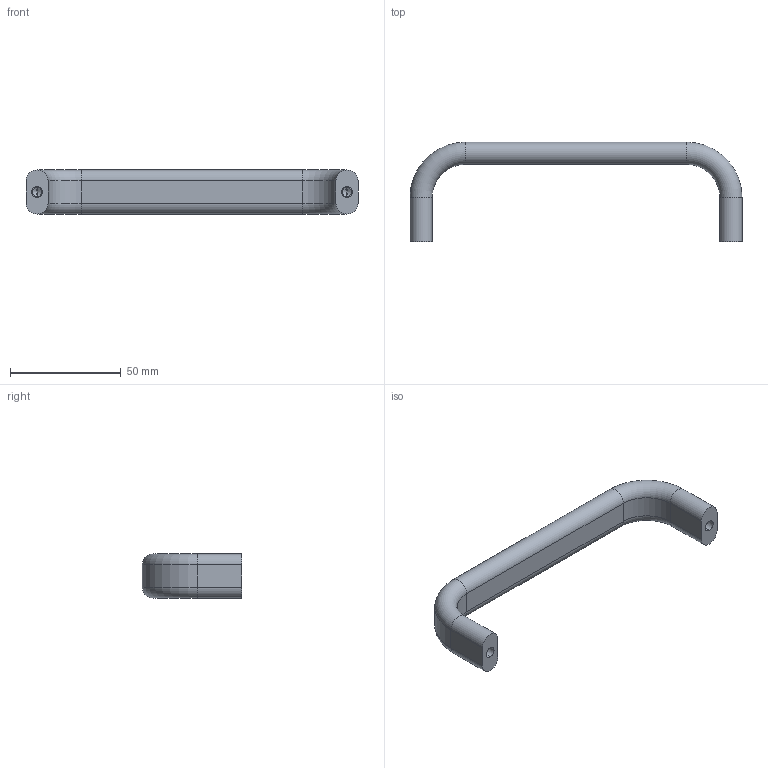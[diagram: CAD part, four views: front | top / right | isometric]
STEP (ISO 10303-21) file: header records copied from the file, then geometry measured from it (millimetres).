
FILE_DESCRIPTION (( 'STEP AP203' ), '1' );
FILE_NAME ('7803.W140-4.step', '2010-02-11T18:09:38', ( 'Wixroyd' ), ( 'Wixroyd' ), 'SwSTEP 2.0', 'SolidWorks 2009', '' );
FILE_SCHEMA (( 'CONFIG_CONTROL_DESIGN' ));
Length unit declared in the file: millimetre
Products named in the file (1): 7803.W140-4
Bounding box: 150 x 45 x 20 mm (x, y, z)
Volume: 35740.4 mm3; surface area: 11170.3 mm2
Topology: 1 solids, 1 shells, 38 faces, 82 edges, 46 vertices
Faces by surface type: cylinder 20, plane 10, cone 4, torus 4
Entity records: 1075 total; most frequent: DIRECTION 196, CARTESIAN_POINT 163, ORIENTED_EDGE 156, AXIS2_PLACEMENT_3D 79, EDGE_CURVE 78, VERTEX_POINT 46, EDGE_LOOP 42, CIRCLE 40
